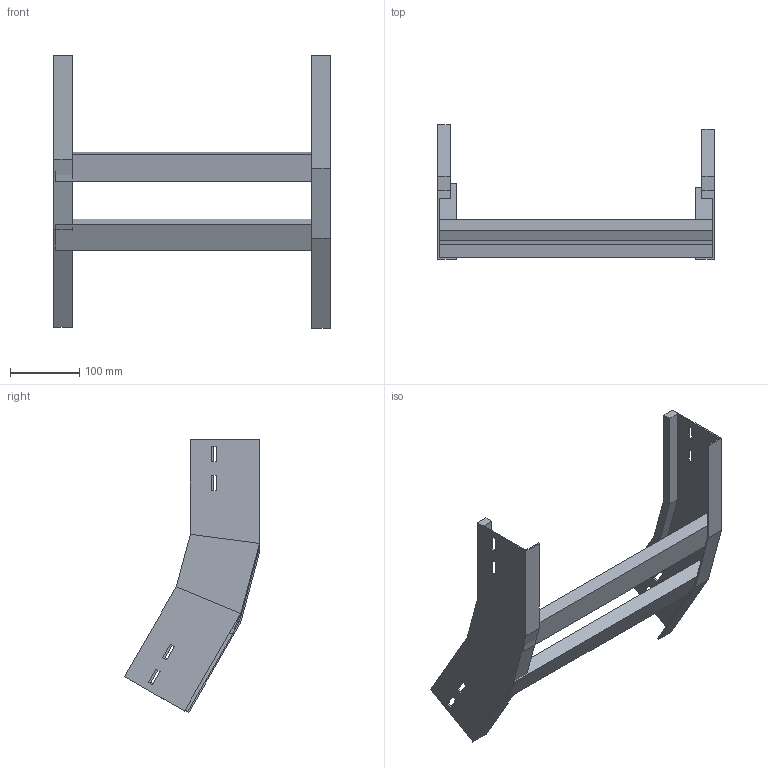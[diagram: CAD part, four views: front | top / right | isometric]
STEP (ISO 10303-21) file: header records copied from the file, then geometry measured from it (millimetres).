
FILE_DESCRIPTION (( 'STEP AP214' ), '1' );
FILE_NAME ('A2X32B3D400XX.step', '2025-03-20T09:57:01', ( '' ), ( '' ), 'SwSTEP 2.0', 'SolidWorks 2023', '' );
FILE_SCHEMA (( 'AUTOMOTIVE_DESIGN' ));
Length unit declared in the file: millimetre
Products named in the file (3): TRAVERSINO_400; LONGH.SALITA_30°_H100_R300; A2X32B3D400XX
Assembly tree (4 placements, depth 2):
  A2X32B3D400XX
    LONGH.SALITA_30°_H100_R300  x2
    TRAVERSINO_400  x2
Bounding box: 400 x 195.25 x 394.23 mm (x, y, z)
Volume: 978886.2 mm3; surface area: 324379.2 mm2
Topology: 4 solids, 4 shells, 96 faces, 232 edges, 144 vertices
Faces by surface type: plane 96
Entity records: 1472 total; most frequent: CARTESIAN_POINT 243, ORIENTED_EDGE 232, DIRECTION 226, EDGE_CURVE 116, LINE 116, VECTOR 116, VERTEX_POINT 72, EDGE_LOOP 56
